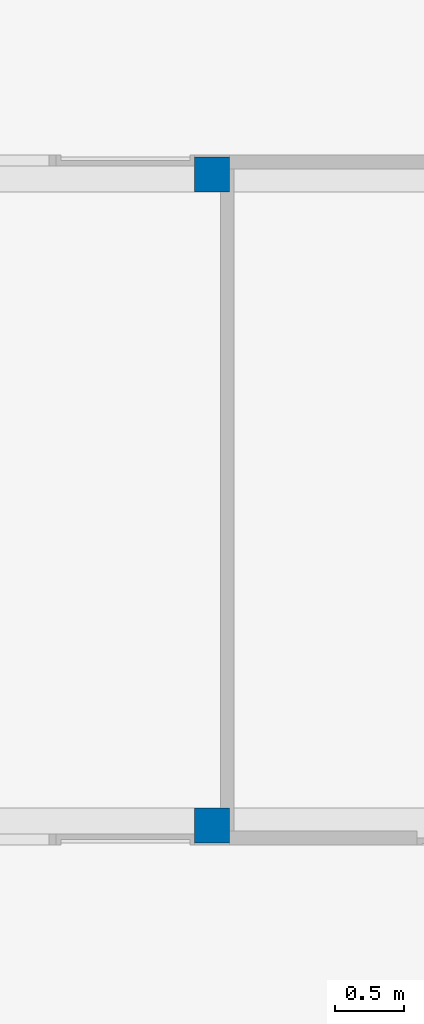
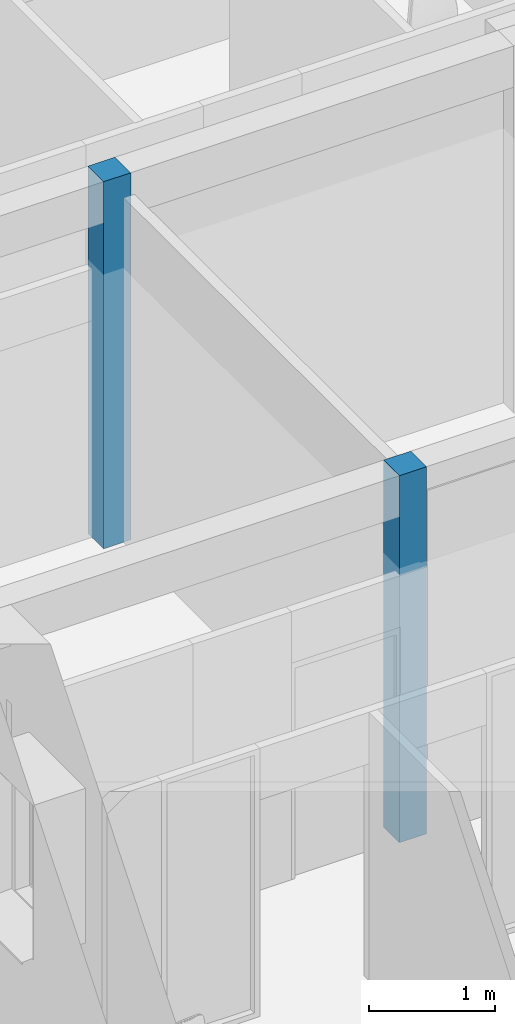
# One storey, part 1 of 91: 2 columns.
"""IFC2X3 building model written with IfcOpenShell, lengths in metres."""

from ifc_helpers import new_model, entity, si_unit, converted_unit, derived_unit, money_unit, direction, frame, origin_with_axes, origin_2d_with_axis, place, context, subcontext, project, spatial, rectangle, extrude, material, type_object, element, save


model = new_model("IFC2X3")

# Units and contexts
model_context = context("Model", 3, precision=1e-05, world=origin_with_axes(), true_north=direction((0.0, 1.0)))
body_context = subcontext(model_context, "Body", "Model", "MODEL_VIEW")
ifc_project = project(units=[si_unit("LENGTHUNIT", "METRE"), si_unit("AREAUNIT", "SQUARE_METRE"), si_unit("VOLUMEUNIT", "CUBIC_METRE"), converted_unit("PLANEANGLEUNIT", "DEGREE", entity("IfcPlaneAngleMeasure", 0.0174532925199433), si_unit("PLANEANGLEUNIT", "RADIAN"), dimensions=[0, 0, 0, 0, 0, 0, 0]), money_unit("EUR"), converted_unit("TIMEUNIT", "Year", entity("IfcTimeMeasure", 31557600.0), si_unit("TIMEUNIT", "SECOND"), dimensions=[0, 0, 1, 0, 0, 0, 0]), si_unit("MASSUNIT", "GRAM", prefix="KILO"), si_unit("THERMODYNAMICTEMPERATUREUNIT", "DEGREE_CELSIUS"), si_unit("LUMINOUSINTENSITYUNIT", "LUMEN"), si_unit("ENERGYUNIT", "JOULE", prefix="MEGA"), derived_unit("THERMALCONDUCTANCEUNIT", [(si_unit("POWERUNIT", "WATT"), 1), (si_unit("LENGTHUNIT", "METRE"), -1), (si_unit("THERMODYNAMICTEMPERATUREUNIT", "KELVIN"), -1)]), derived_unit("SPECIFICHEATCAPACITYUNIT", [(si_unit("ENERGYUNIT", "JOULE"), 1), (si_unit("MASSUNIT", "GRAM", prefix="KILO"), -1), (si_unit("THERMODYNAMICTEMPERATUREUNIT", "KELVIN"), -1)]), derived_unit("MASSDENSITYUNIT", [(si_unit("MASSUNIT", "GRAM", prefix="KILO"), 1), (si_unit("VOLUMEUNIT", "CUBIC_METRE"), -1)])], contexts=[model_context])

# Site, building, storey
site_placement = place(None, origin_with_axes())
site = spatial("IfcSite", under=ifc_project, at=site_placement, Name="Site", CompositionType="ELEMENT")
building_placement = place(site_placement, origin_with_axes())
building = spatial("IfcBuilding", under=site, at=building_placement, Name="Bâtiment", CompositionType="ELEMENT")
storey_placement = place(building_placement, origin_with_axes())
storey = spatial("IfcBuildingStorey", under=building, at=storey_placement, Name="RDC", CompositionType="ELEMENT", Elevation=0.0)

# Columns
ifc_material = material(Name="Béton")
column_type = type_object("IfcColumnType", Name="Béton 250 x 250", PredefinedType="NOTDEFINED")
for number, where, z_axis, x_axis in (
    (1, (28.79038397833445, -16.7575645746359, 0.0), (0.0, 0.0, 1.0), (0.0, -1.0, 0.0)),
    (2, (28.79038397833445, -21.45756464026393, 0.0), (0.0, 0.0, 1.0), (0.0, -1.0, 0.0)),
):
    element("IfcColumn", number, at=place(storey_placement, frame(where, z_axis=z_axis, x_axis=x_axis)), inside=storey, type_object=column_type, material=ifc_material, Name="PotB-005", context=body_context, shape_type="SweptSolid", body=[
        extrude(rectangle(XDim=0.25, YDim=0.25, at=origin_2d_with_axis()), frame((0.0, 0.0, 0.0), z_axis=(0.0, 0.0, -1.0), x_axis=(-1.0, 0.0, 0.0)), (0.0, 0.0, -1.0), 3.56),
    ])

save(model, "model.ifc")
